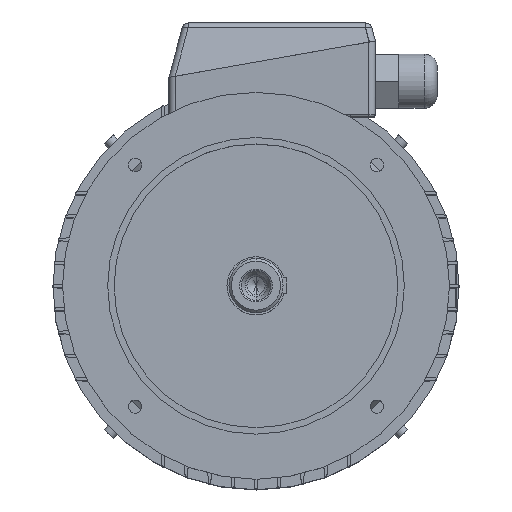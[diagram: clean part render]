
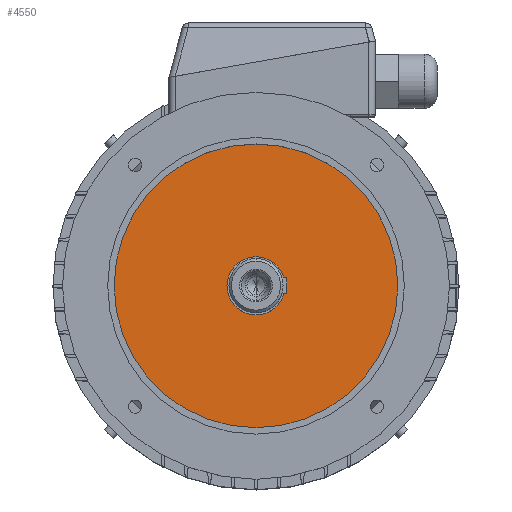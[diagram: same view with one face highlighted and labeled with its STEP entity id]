
A CAD part, top view. The second image highlights one B-rep face of the part: STEP entity #4550.
In plain terms, the highlighted planar face has unit normal (0, 0, 1).
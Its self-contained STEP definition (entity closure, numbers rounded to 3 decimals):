
#16599 = VERTEX_POINT ( 'NONE', #11469 ) ;
#16860 = EDGE_CURVE ( 'NONE', #16599, #16320, #11703, .T. ) ;
#1015 = VERTEX_POINT ( 'NONE', #15148 ) ;
#1270 = EDGE_CURVE ( 'NONE', #2317, #1015, #15309, .T. ) ;
#17740 = FACE_BOUND ( 'NONE', #12440, .T. ) ;
#17741 = FACE_OUTER_BOUND ( 'NONE', #10501, .T. ) ;
#17742 = PLANE ( 'NONE',  #17743 ) ;
#17743 = AXIS2_PLACEMENT_3D ( 'NONE', #17744, #17745, #17746 ) ;
#17744 = CARTESIAN_POINT ( 'NONE',  ( 0., 115., 59. ) ) ;
#17745 = DIRECTION ( 'NONE',  ( 0., 0., 1. ) ) ;
#17746 = DIRECTION ( 'NONE',  ( 1., 0., 0. ) ) ;
#2150 = CIRCLE ( 'NONE', #2157, 110. ) ;
#2157 = AXIS2_PLACEMENT_3D ( 'NONE', #2158, #2159, #2160 ) ;
#2158 = CARTESIAN_POINT ( 'NONE',  ( 0., 0., 59. ) ) ;
#2159 = DIRECTION ( 'NONE',  ( 0., 0., 1. ) ) ;
#2160 = DIRECTION ( 'NONE',  ( 1., 0., 0. ) ) ;
#2317 = VERTEX_POINT ( 'NONE', #16029 ) ;
#2320 = ORIENTED_EDGE ( 'NONE', *, *, #8310, .T. ) ;
#4550 = ADVANCED_FACE ( 'NONE', ( #17740, #17741 ), #17742, .T. ) ;
#4732 = CIRCLE ( 'NONE', #4733, 22.5 ) ;
#4733 = AXIS2_PLACEMENT_3D ( 'NONE', #4734, #4735, #4736 ) ;
#4734 = CARTESIAN_POINT ( 'NONE',  ( 0., 0., 59. ) ) ;
#4735 = DIRECTION ( 'NONE',  ( 0., 0., 1. ) ) ;
#4736 = DIRECTION ( 'NONE',  ( 1., 0., 0. ) ) ;
#8310 = EDGE_CURVE ( 'NONE', #16320, #16599, #2150, .T. ) ;
#10501 = EDGE_LOOP ( 'NONE', ( #2320, #14084 ) ) ;
#10779 = ORIENTED_EDGE ( 'NONE', *, *, #1270, .F. ) ;
#11247 = CARTESIAN_POINT ( 'NONE',  ( 110., 0., 59. ) ) ;
#11384 = EDGE_CURVE ( 'NONE', #1015, #2317, #4732, .T. ) ;
#11469 = CARTESIAN_POINT ( 'NONE',  ( -110., 0., 59. ) ) ;
#11703 = CIRCLE ( 'NONE', #11704, 110. ) ;
#11704 = AXIS2_PLACEMENT_3D ( 'NONE', #11705, #11706, #11707 ) ;
#11705 = CARTESIAN_POINT ( 'NONE',  ( 0., 0., 59. ) ) ;
#11706 = DIRECTION ( 'NONE',  ( 0., 0., 1. ) ) ;
#11707 = DIRECTION ( 'NONE',  ( 1., 0., 0. ) ) ;
#11818 = ORIENTED_EDGE ( 'NONE', *, *, #11384, .F. ) ;
#12440 = EDGE_LOOP ( 'NONE', ( #11818, #10779 ) ) ;
#14084 = ORIENTED_EDGE ( 'NONE', *, *, #16860, .T. ) ;
#15148 = CARTESIAN_POINT ( 'NONE',  ( 0., 22.5, 59. ) ) ;
#15309 = CIRCLE ( 'NONE', #15310, 22.5 ) ;
#15310 = AXIS2_PLACEMENT_3D ( 'NONE', #15311, #15312, #15313 ) ;
#15311 = CARTESIAN_POINT ( 'NONE',  ( 0., 0., 59. ) ) ;
#15312 = DIRECTION ( 'NONE',  ( 0., 0., 1. ) ) ;
#15313 = DIRECTION ( 'NONE',  ( 1., 0., 0. ) ) ;
#16029 = CARTESIAN_POINT ( 'NONE',  ( 0., -22.5, 59. ) ) ;
#16320 = VERTEX_POINT ( 'NONE', #11247 ) ;
